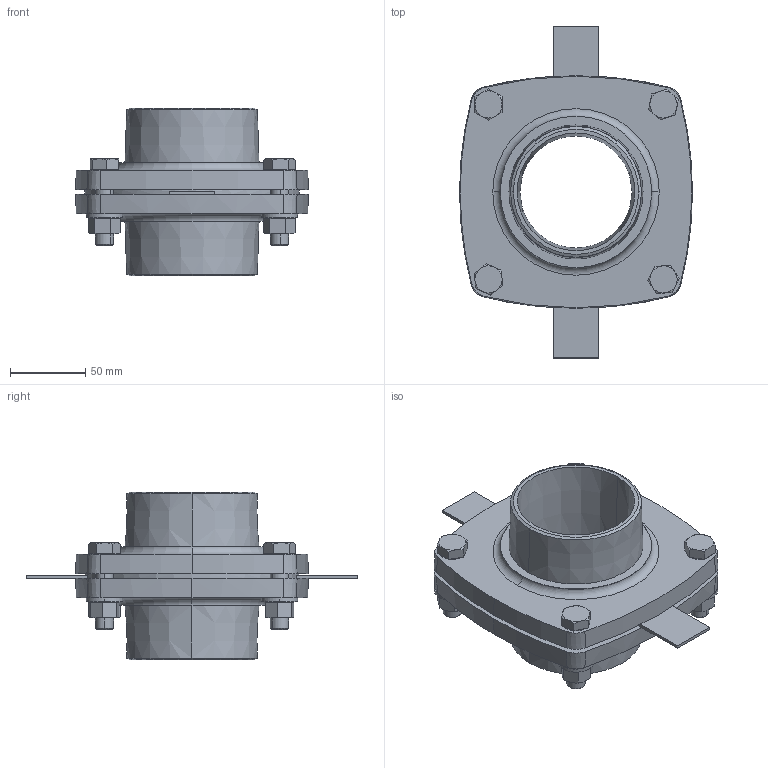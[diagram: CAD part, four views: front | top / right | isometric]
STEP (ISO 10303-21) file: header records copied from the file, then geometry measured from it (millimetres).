
FILE_DESCRIPTION (( 'STEP AP214' ), '1' );
FILE_NAME ('KP_F16-90MM.STEP', '2014-01-20T15:37:46', ( 'robinj' ), ( 'Microsoft' ), 'SwSTEP 2.0', 'SolidWorks 2014', '' );
FILE_SCHEMA (( 'AUTOMOTIVE_DESIGN' ));
Length unit declared in the file: millimetre
Products named in the file (1): KP_F16-90MM
Bounding box: 154.3 x 220 x 111 mm (x, y, z)
Volume: 650350.2 mm3; surface area: 130338.4 mm2
Topology: 1 solids, 1 shells, 353 faces, 780 edges, 460 vertices
Faces by surface type: plane 149, cone 124, cylinder 68, torus 12
Entity records: 11311 total; most frequent: CARTESIAN_POINT 2154, DIRECTION 1764, ORIENTED_EDGE 1560, EDGE_CURVE 780, AXIS2_PLACEMENT_3D 726, VERTEX_POINT 460, EDGE_LOOP 394, CIRCLE 372
